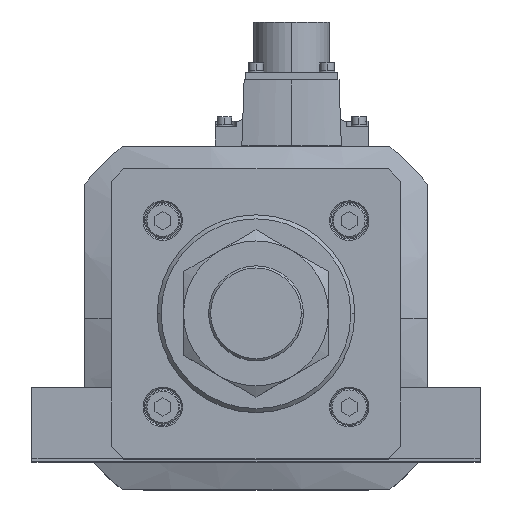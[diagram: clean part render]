
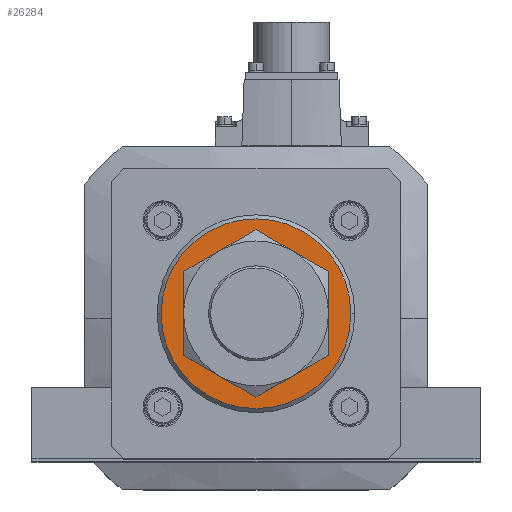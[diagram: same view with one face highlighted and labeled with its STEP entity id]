
A CAD part, top view. The second image highlights one B-rep face of the part: STEP entity #26284.
In plain terms, the highlighted planar face has unit normal (0, 0, 1).
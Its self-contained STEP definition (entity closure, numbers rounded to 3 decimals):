
#2 = CIRCLE ( 'NONE', #36195, 36. ) ;
#1417 = CARTESIAN_POINT ( 'NONE',  ( 0., 0., 696. ) ) ;
#3794 = CARTESIAN_POINT ( 'NONE',  ( 0., 0., 696. ) ) ;
#4095 = CARTESIAN_POINT ( 'NONE',  ( 23., 0., 696. ) ) ;
#5019 = AXIS2_PLACEMENT_3D ( 'NONE', #8291, #34354, #16886 ) ;
#5418 = EDGE_CURVE ( 'NONE', #6507, #36237, #2, .T. ) ;
#6507 = VERTEX_POINT ( 'NONE', #21041 ) ;
#8275 = DIRECTION ( 'NONE',  ( 1., 0., 0. ) ) ;
#8291 = CARTESIAN_POINT ( 'NONE',  ( 0., 0., 696. ) ) ;
#11619 = FACE_BOUND ( 'NONE', #12576, .T. ) ;
#12576 = EDGE_LOOP ( 'NONE', ( #26782, #18706 ) ) ;
#13933 = FACE_OUTER_BOUND ( 'NONE', #26257, .T. ) ;
#14111 = CARTESIAN_POINT ( 'NONE',  ( 0., 0., 696. ) ) ;
#14446 = PLANE ( 'NONE',  #28723 ) ;
#14728 = AXIS2_PLACEMENT_3D ( 'NONE', #14111, #34502, #17021 ) ;
#14971 = VERTEX_POINT ( 'NONE', #4095 ) ;
#15557 = DIRECTION ( 'NONE',  ( 0., 0., 1. ) ) ;
#15845 = DIRECTION ( 'NONE',  ( 1., 0., 0. ) ) ;
#16120 = CARTESIAN_POINT ( 'NONE',  ( -36., 0., 696. ) ) ;
#16886 = DIRECTION ( 'NONE',  ( 1., 0., 0. ) ) ;
#17021 = DIRECTION ( 'NONE',  ( 1., 0., 0. ) ) ;
#17216 = CIRCLE ( 'NONE', #14728, 23. ) ;
#17234 = EDGE_CURVE ( 'NONE', #14971, #25533, #17216, .T. ) ;
#18490 = DIRECTION ( 'NONE',  ( 1., 0., 0. ) ) ;
#18706 = ORIENTED_EDGE ( 'NONE', *, *, #21169, .T. ) ;
#18752 = ORIENTED_EDGE ( 'NONE', *, *, #5418, .T. ) ;
#21041 = CARTESIAN_POINT ( 'NONE',  ( 36., 0., 696. ) ) ;
#21169 = EDGE_CURVE ( 'NONE', #25533, #14971, #27440, .T. ) ;
#21712 = DIRECTION ( 'NONE',  ( 0., 0., 1. ) ) ;
#22531 = AXIS2_PLACEMENT_3D ( 'NONE', #3794, #15557, #18490 ) ;
#23007 = EDGE_CURVE ( 'NONE', #36237, #6507, #30953, .T. ) ;
#25491 = ORIENTED_EDGE ( 'NONE', *, *, #23007, .T. ) ;
#25533 = VERTEX_POINT ( 'NONE', #26889 ) ;
#25777 = CARTESIAN_POINT ( 'NONE',  ( 0., 0., 696. ) ) ;
#25905 = DIRECTION ( 'NONE',  ( 0., 0., 1. ) ) ;
#26257 = EDGE_LOOP ( 'NONE', ( #25491, #18752 ) ) ;
#26284 = ADVANCED_FACE ( 'NONE', ( #11619, #13933 ), #14446, .T. ) ;
#26782 = ORIENTED_EDGE ( 'NONE', *, *, #17234, .T. ) ;
#26889 = CARTESIAN_POINT ( 'NONE',  ( -23., 0., 696. ) ) ;
#27440 = CIRCLE ( 'NONE', #5019, 23. ) ;
#28723 = AXIS2_PLACEMENT_3D ( 'NONE', #25777, #25905, #8275 ) ;
#30953 = CIRCLE ( 'NONE', #22531, 36. ) ;
#34354 = DIRECTION ( 'NONE',  ( 0., 0., -1. ) ) ;
#34502 = DIRECTION ( 'NONE',  ( 0., 0., -1. ) ) ;
#36195 = AXIS2_PLACEMENT_3D ( 'NONE', #1417, #21712, #15845 ) ;
#36237 = VERTEX_POINT ( 'NONE', #16120 ) ;
